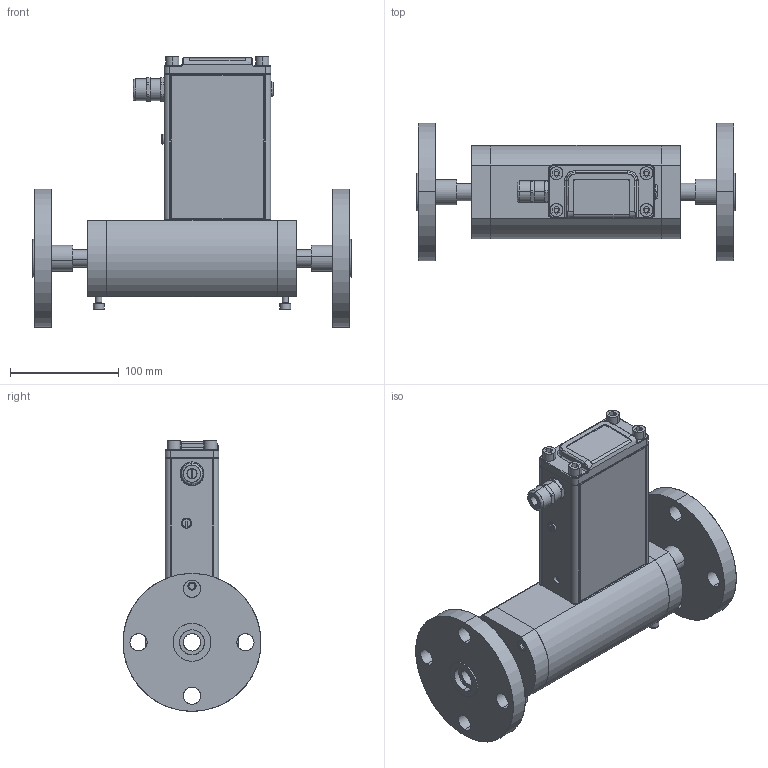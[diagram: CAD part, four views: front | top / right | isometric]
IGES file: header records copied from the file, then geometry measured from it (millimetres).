
Start section: SolidWorks IGES file using analytic representation for surfaces
Global section: file name: G:\Engineering\CAD MODELS FOR SALES\CAD MODEL STORAGE\SLA\SLAMF63\CUSTOMER FILES\IGES\SLAMF63-S-3J-0-G-RevB.IGS; native system: SolidWorks 2014; preprocessor: SolidWorks 2014; author: CFehr; date: 170303.094712; units: inch
Bounding box: 293.6 x 127.01 x 249.13 mm (x, y, z)
Surface area: 214742.8 mm2 (no closed solid volume)
Topology: 0 solids, 0 shells, 387 faces, 6373 edges, 6371 vertices
Faces by surface type: bspline 217, revolution 170
